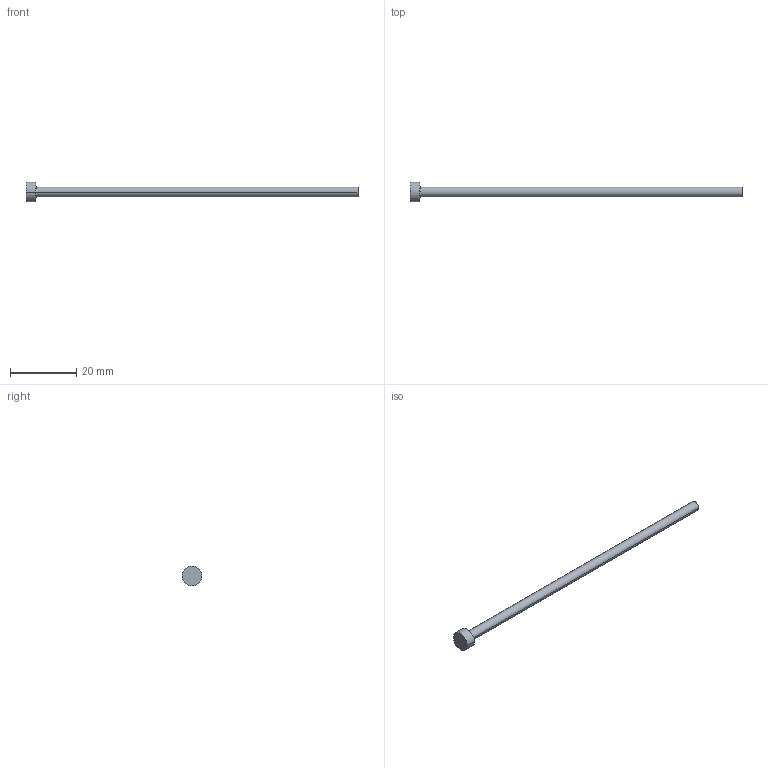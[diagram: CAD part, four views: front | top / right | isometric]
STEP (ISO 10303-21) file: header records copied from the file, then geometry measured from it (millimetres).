
FILE_DESCRIPTION (( 'STEP AP214' ), '1' );
FILE_NAME ('A-3x100.STEP', '2020-05-28T17:36:56', ( 'August' ), ( '' ), 'SwSTEP 2.0', 'SolidWorks 2018', '' );
FILE_SCHEMA (( 'AUTOMOTIVE_DESIGN' ));
Length unit declared in the file: millimetre
Products named in the file (1): A-3x100
Bounding box: 100 x 6 x 6 mm (x, y, z)
Volume: 770.7 mm3; surface area: 1026.1 mm2
Topology: 1 solids, 1 shells, 9 faces, 16 edges, 10 vertices
Faces by surface type: cylinder 4, plane 3, torus 2
Entity records: 260 total; most frequent: DIRECTION 48, CARTESIAN_POINT 36, ORIENTED_EDGE 32, AXIS2_PLACEMENT_3D 22, EDGE_CURVE 16, CIRCLE 12, EDGE_LOOP 10, VERTEX_POINT 10
